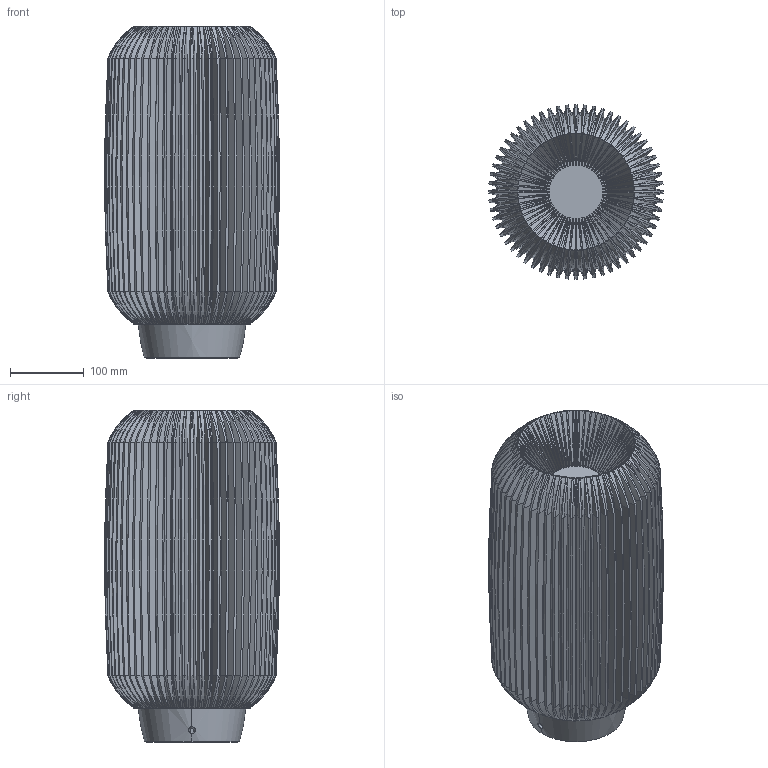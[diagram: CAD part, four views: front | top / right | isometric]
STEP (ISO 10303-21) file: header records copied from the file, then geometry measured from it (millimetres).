
FILE_DESCRIPTION(/* description */ (''),/* implementation_level */ '2;1');
FILE_NAME(/* name */ 'iloo1-bloco',/* time_stamp */ '2023-05-06T20:20:54-03:00',/* author */ (''),/* organization */ (''),/* preprocessor_version */ 'ST-DEVELOPER v15',/* originating_system */ '',/* authorisation */ '');
FILE_SCHEMA (('AUTOMOTIVE_DESIGN'));
Length unit declared in the file: millimetre
Products named in the file (1): Document
Bounding box: 236.66 x 236.66 x 449.54 mm (x, y, z)
Volume: 14870577.8 mm3; surface area: 869617.5 mm2
Topology: 4 solids, 4 shells, 1909 faces, 4906 edges, 3006 vertices
Faces by surface type: bspline 1359, plane 550
Entity records: 80120 total; most frequent: CARTESIAN_POINT 49298, ORIENTED_EDGE 9810, EDGE_CURVE 4905, B_SPLINE_CURVE_WITH_KNOTS 4576, VERTEX_POINT 3005, EDGE_LOOP 1910, ADVANCED_FACE 1909, FACE_OUTER_BOUND 1909
